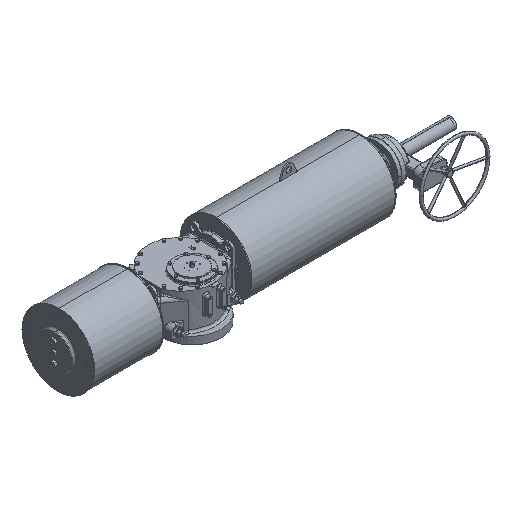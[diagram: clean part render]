
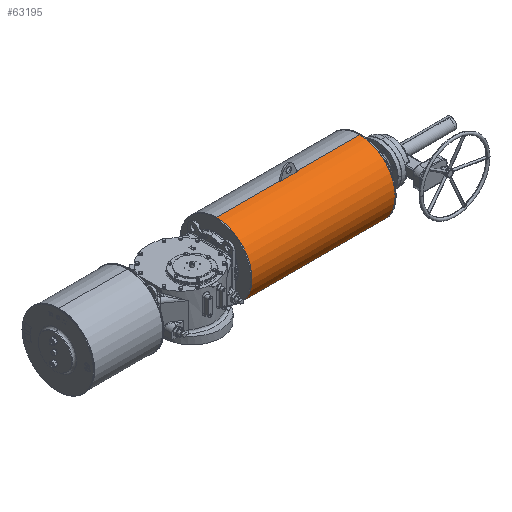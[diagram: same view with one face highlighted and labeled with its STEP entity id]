
A CAD part, isometric view. The second image highlights one B-rep face of the part: STEP entity #63195.
In plain terms, the highlighted cylindrical face has radius 254 mm (diameter 508 mm), a partial arc.
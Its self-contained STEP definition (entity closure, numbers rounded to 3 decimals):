
#1868 = CARTESIAN_POINT ( 'NONE',  ( 314.5, 140., 113. ) ) ;
#1903 = AXIS2_PLACEMENT_3D ( 'NONE', #95014, #52481, #20309 ) ;
#3870 = EDGE_CURVE ( 'NONE', #76358, #25104, #23175, .T. ) ;
#4248 = DIRECTION ( 'NONE',  ( 1., 0., 0. ) ) ;
#5176 = CARTESIAN_POINT ( 'NONE',  ( 317.5, 140., 367. ) ) ;
#6667 = AXIS2_PLACEMENT_3D ( 'NONE', #70206, #4248, #54931 ) ;
#6750 = CARTESIAN_POINT ( 'NONE',  ( 1340.5, 140., 367. ) ) ;
#8328 = AXIS2_PLACEMENT_3D ( 'NONE', #12387, #102907, #70669 ) ;
#9102 = VECTOR ( 'NONE', #54898, 1000. ) ;
#10530 = CARTESIAN_POINT ( 'NONE',  ( 314.5, 140., -141. ) ) ;
#12387 = CARTESIAN_POINT ( 'NONE',  ( 887.5, 140., 113. ) ) ;
#13692 = CARTESIAN_POINT ( 'NONE',  ( 317.5, 140., 113. ) ) ;
#14827 = ORIENTED_EDGE ( 'NONE', *, *, #102729, .T. ) ;
#17125 = CARTESIAN_POINT ( 'NONE',  ( 1340.5, 140., -141. ) ) ;
#17604 = ORIENTED_EDGE ( 'NONE', *, *, #83326, .T. ) ;
#18508 = CARTESIAN_POINT ( 'NONE',  ( 1340.5, 140., 113. ) ) ;
#19645 = VERTEX_POINT ( 'NONE', #6750 ) ;
#19855 = ORIENTED_EDGE ( 'NONE', *, *, #49957, .T. ) ;
#20309 = DIRECTION ( 'NONE',  ( 0., 0., -1. ) ) ;
#21623 = CARTESIAN_POINT ( 'NONE',  ( 887.5, 135., 366.951 ) ) ;
#22265 = CARTESIAN_POINT ( 'NONE',  ( 767.5, 140., 113. ) ) ;
#23175 = CIRCLE ( 'NONE', #98063, 254. ) ;
#24608 = EDGE_CURVE ( 'NONE', #86669, #84228, #55296, .T. ) ;
#24619 = AXIS2_PLACEMENT_3D ( 'NONE', #22265, #104093, #79518 ) ;
#25104 = VERTEX_POINT ( 'NONE', #93245 ) ;
#26074 = VERTEX_POINT ( 'NONE', #10530 ) ;
#28013 = EDGE_CURVE ( 'NONE', #76358, #43483, #53804, .T. ) ;
#31177 = AXIS2_PLACEMENT_3D ( 'NONE', #13692, #36596, #54009 ) ;
#31810 = VERTEX_POINT ( 'NONE', #104385 ) ;
#32411 = DIRECTION ( 'NONE',  ( 1., 0., 0. ) ) ;
#32827 = ORIENTED_EDGE ( 'NONE', *, *, #60959, .T. ) ;
#36596 = DIRECTION ( 'NONE',  ( 1., 0., 0. ) ) ;
#36806 = CARTESIAN_POINT ( 'NONE',  ( 887.5, 140., 367. ) ) ;
#38305 = CARTESIAN_POINT ( 'NONE',  ( 314.5, 140., 367. ) ) ;
#40884 = DIRECTION ( 'NONE',  ( 0., 0., -1. ) ) ;
#41429 = VECTOR ( 'NONE', #102161, 1000. ) ;
#42222 = DIRECTION ( 'NONE',  ( 1., 0., 0. ) ) ;
#42684 = ORIENTED_EDGE ( 'NONE', *, *, #3870, .T. ) ;
#43483 = VERTEX_POINT ( 'NONE', #56463 ) ;
#49957 = EDGE_CURVE ( 'NONE', #67942, #50861, #81972, .T. ) ;
#50861 = VERTEX_POINT ( 'NONE', #66138 ) ;
#51145 = EDGE_CURVE ( 'NONE', #84228, #31810, #78113, .T. ) ;
#52481 = DIRECTION ( 'NONE',  ( -1., 0., 0. ) ) ;
#53653 = CIRCLE ( 'NONE', #6667, 254. ) ;
#53804 = LINE ( 'NONE', #104025, #9102 ) ;
#54009 = DIRECTION ( 'NONE',  ( 0., 0., -1. ) ) ;
#54619 = ORIENTED_EDGE ( 'NONE', *, *, #59929, .F. ) ;
#54898 = DIRECTION ( 'NONE',  ( 1., 0., 0. ) ) ;
#54931 = DIRECTION ( 'NONE',  ( 0., 0., -1. ) ) ;
#55296 = CIRCLE ( 'NONE', #8328, 254. ) ;
#56463 = CARTESIAN_POINT ( 'NONE',  ( 767.5, 140., 367. ) ) ;
#59929 = EDGE_CURVE ( 'NONE', #86669, #19645, #107144, .T. ) ;
#60959 = EDGE_CURVE ( 'NONE', #25104, #26074, #53653, .T. ) ;
#63195 = ADVANCED_FACE ( 'NONE', ( #104770 ), #78571, .T. ) ;
#63791 = CARTESIAN_POINT ( 'NONE',  ( 317.5, 140., -141. ) ) ;
#64636 = CIRCLE ( 'NONE', #24619, 254. ) ;
#66138 = CARTESIAN_POINT ( 'NONE',  ( 1340.5, -114., 113. ) ) ;
#67942 = VERTEX_POINT ( 'NONE', #17125 ) ;
#69681 = VECTOR ( 'NONE', #106942, 1000. ) ;
#70206 = CARTESIAN_POINT ( 'NONE',  ( 314.5, 140., 113. ) ) ;
#70669 = DIRECTION ( 'NONE',  ( 0., 0., 1. ) ) ;
#76358 = VERTEX_POINT ( 'NONE', #38305 ) ;
#77600 = CARTESIAN_POINT ( 'NONE',  ( 317.5, 135., 366.951 ) ) ;
#78113 = LINE ( 'NONE', #77600, #41429 ) ;
#78571 = CYLINDRICAL_SURFACE ( 'NONE', #31177, 254. ) ;
#79518 = DIRECTION ( 'NONE',  ( 0., 0., -1. ) ) ;
#81791 = LINE ( 'NONE', #63791, #69681 ) ;
#81972 = CIRCLE ( 'NONE', #1903, 254. ) ;
#83326 = EDGE_CURVE ( 'NONE', #31810, #43483, #64636, .T. ) ;
#84228 = VERTEX_POINT ( 'NONE', #21623 ) ;
#85508 = CIRCLE ( 'NONE', #94152, 254. ) ;
#86619 = EDGE_LOOP ( 'NONE', ( #107400, #42684, #32827, #89199, #19855, #14827, #54619, #94571, #95329, #17604 ) ) ;
#86669 = VERTEX_POINT ( 'NONE', #36806 ) ;
#89199 = ORIENTED_EDGE ( 'NONE', *, *, #100678, .T. ) ;
#93245 = CARTESIAN_POINT ( 'NONE',  ( 314.5, -114., 113. ) ) ;
#93472 = DIRECTION ( 'NONE',  ( 0., 0., -1. ) ) ;
#94152 = AXIS2_PLACEMENT_3D ( 'NONE', #18508, #100858, #40884 ) ;
#94571 = ORIENTED_EDGE ( 'NONE', *, *, #24608, .T. ) ;
#95014 = CARTESIAN_POINT ( 'NONE',  ( 1340.5, 140., 113. ) ) ;
#95329 = ORIENTED_EDGE ( 'NONE', *, *, #51145, .T. ) ;
#98063 = AXIS2_PLACEMENT_3D ( 'NONE', #1868, #42222, #93472 ) ;
#100678 = EDGE_CURVE ( 'NONE', #26074, #67942, #81791, .T. ) ;
#100858 = DIRECTION ( 'NONE',  ( -1., 0., 0. ) ) ;
#102161 = DIRECTION ( 'NONE',  ( -1., 0., 0. ) ) ;
#102729 = EDGE_CURVE ( 'NONE', #50861, #19645, #85508, .T. ) ;
#102907 = DIRECTION ( 'NONE',  ( 1., 0., 0. ) ) ;
#104025 = CARTESIAN_POINT ( 'NONE',  ( 317.5, 140., 367. ) ) ;
#104093 = DIRECTION ( 'NONE',  ( -1., 0., 0. ) ) ;
#104385 = CARTESIAN_POINT ( 'NONE',  ( 767.5, 135., 366.951 ) ) ;
#104770 = FACE_OUTER_BOUND ( 'NONE', #86619, .T. ) ;
#105786 = VECTOR ( 'NONE', #32411, 1000. ) ;
#106942 = DIRECTION ( 'NONE',  ( 1., 0., 0. ) ) ;
#107144 = LINE ( 'NONE', #5176, #105786 ) ;
#107400 = ORIENTED_EDGE ( 'NONE', *, *, #28013, .F. ) ;
